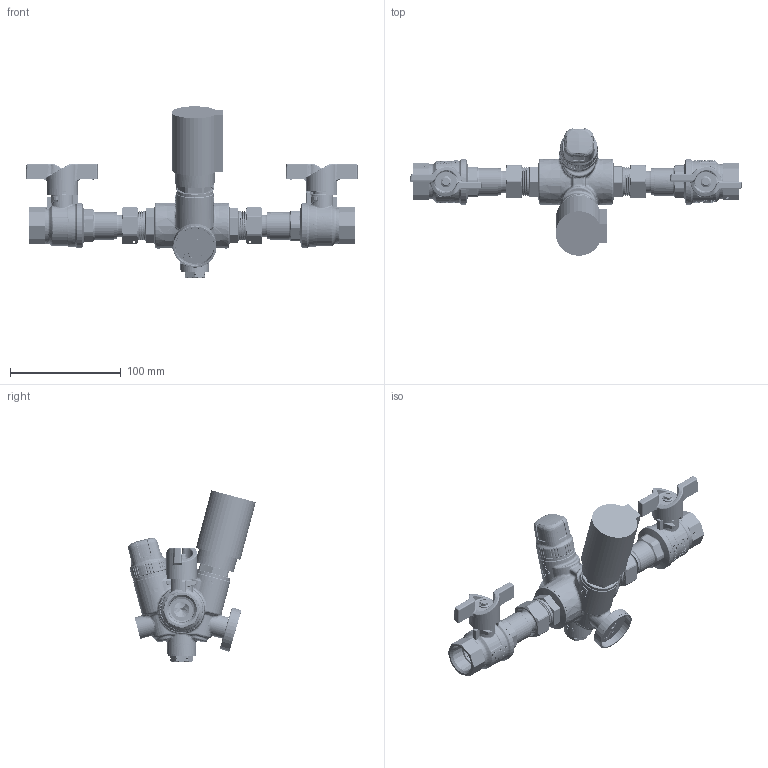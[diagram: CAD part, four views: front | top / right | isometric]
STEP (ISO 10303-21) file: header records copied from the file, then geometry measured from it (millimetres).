
FILE_DESCRIPTION(('Open CASCADE Model'),'2;1');
FILE_NAME('Open CASCADE Shape Model','2022-08-03T09:53:27',('Author'),( 'Open CASCADE'),'Open CASCADE STEP processor 7.3','Open CASCADE 7.3' ,'Unknown');
FILE_SCHEMA(('AUTOMOTIVE_DESIGN { 1 0 10303 214 1 1 1 1 }'));
Length unit declared in the file: millimetre
Products named in the file (58): Open CASCADE STEP translator 7.3 1; Open CASCADE STEP translator 7.3 1.1; Open CASCADE STEP translator 7.3 1.1.1; Open CASCADE STEP translator 7.3 1.1.2; Open CASCADE STEP translator 7.3 1.1.3; Open CASCADE STEP translator 7.3 1.1.4; Open CASCADE STEP translator 7.3 1.1.5; Open CASCADE STEP translator 7.3 1.1.6; Open CASCADE STEP translator 7.3 1.1.7; Open CASCADE STEP translator 7.3 1.1.8; Open CASCADE STEP translator 7.3 1.1.9; Open CASCADE STEP translator 7.3 1.1.10; Open CASCADE STEP translator 7.3 1.1.11; Open CASCADE STEP translator 7.3 1.1.12; Open CASCADE STEP translator 7.3 1.1.13; Open CASCADE STEP translator 7.3 1.1.14; Open CASCADE STEP translator 7.3 1.1.15; Open CASCADE STEP translator 7.3 1.1.16; Open CASCADE STEP translator 7.3 1.1.17; Open CASCADE STEP translator 7.3 1.1.18; Open CASCADE STEP translator 7.3 1.1.19; Open CASCADE STEP translator 7.3 1.1.20; Open CASCADE STEP translator 7.3 1.1.21; Open CASCADE STEP translator 7.3 1.1.22; Open CASCADE STEP translator 7.3 1.1.23; Open CASCADE STEP translator 7.3 1.1.24; Open CASCADE STEP translator 7.3 1.1.25; Open CASCADE STEP translator 7.3 1.1.26; Open CASCADE STEP translator 7.3 1.1.27; Open CASCADE STEP translator 7.3 1.1.28; Open CASCADE STEP translator 7.3 1.1.29; Open CASCADE STEP translator 7.3 1.1.30; Open CASCADE STEP translator 7.3 1.1.31; Open CASCADE STEP translator 7.3 1.1.32; Open CASCADE STEP translator 7.3 1.1.33; Open CASCADE STEP translator 7.3 1.1.34; Open CASCADE STEP translator 7.3 1.1.35; Open CASCADE STEP translator 7.3 1.1.36; Open CASCADE STEP translator 7.3 1.2; Open CASCADE STEP translator 7.3 1.2.1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
Assembly tree (57 placements, depth 3):
  Open CASCADE STEP translator 7.3 1
    Open CASCADE STEP translator 7.3 1.1
      Open CASCADE STEP translator 7.3 1.1.1
      Open CASCADE STEP translator 7.3 1.1.2
      Open CASCADE STEP translator 7.3 1.1.3
      Open CASCADE STEP translator 7.3 1.1.4
      Open CASCADE STEP translator 7.3 1.1.5
      Open CASCADE STEP translator 7.3 1.1.6
      Open CASCADE STEP translator 7.3 1.1.7
      Open CASCADE STEP translator 7.3 1.1.8
      Open CASCADE STEP translator 7.3 1.1.9
      Open CASCADE STEP translator 7.3 1.1.10
      Open CASCADE STEP translator 7.3 1.1.11
      Open CASCADE STEP translator 7.3 1.1.12
      Open CASCADE STEP translator 7.3 1.1.13
      Open CASCADE STEP translator 7.3 1.1.14
      Open CASCADE STEP translator 7.3 1.1.15
      Open CASCADE STEP translator 7.3 1.1.16
      Open CASCADE STEP translator 7.3 1.1.17
      Open CASCADE STEP translator 7.3 1.1.18
      Open CASCADE STEP translator 7.3 1.1.19
      Open CASCADE STEP translator 7.3 1.1.20
      Open CASCADE STEP translator 7.3 1.1.21
      Open CASCADE STEP translator 7.3 1.1.22
      Open CASCADE STEP translator 7.3 1.1.23
      Open CASCADE STEP translator 7.3 1.1.24
      Open CASCADE STEP translator 7.3 1.1.25
      Open CASCADE STEP translator 7.3 1.1.26
      Open CASCADE STEP translator 7.3 1.1.27
      Open CASCADE STEP translator 7.3 1.1.28
      Open CASCADE STEP translator 7.3 1.1.29
      Open CASCADE STEP translator 7.3 1.1.30
      Open CASCADE STEP translator 7.3 1.1.31
      Open CASCADE STEP translator 7.3 1.1.32
      Open CASCADE STEP translator 7.3 1.1.33
      Open CASCADE STEP translator 7.3 1.1.34
      Open CASCADE STEP translator 7.3 1.1.35
      Open CASCADE STEP translator 7.3 1.1.36
    Open CASCADE STEP translator 7.3 1.2
      Open CASCADE STEP translator 7.3 1.2.1
      Open CASCADE STEP translator 7.3 1.2.2
      Open CASCADE STEP translator 7.3 1.2.3
      Open CASCADE STEP translator 7.3 1.2.4
      Open CASCADE STEP translator 7.3 1.2.5
      Open CASCADE STEP translator 7.3 1.2.6
      Open CASCADE STEP translator 7.3 1.2.7
      Open CASCADE STEP translator 7.3 1.2.8
      Open CASCADE STEP translator 7.3 1.2.9
      Open CASCADE STEP translator 7.3 1.2.10
      Open CASCADE STEP translator 7.3 1.2.11
      Open CASCADE STEP translator 7.3 1.2.12
      Open CASCADE STEP translator 7.3 1.2.13
      Open CASCADE STEP translator 7.3 1.2.14
      Open CASCADE STEP translator 7.3 1.2.15
      Open CASCADE STEP translator 7.3 1.2.16
      Open CASCADE STEP translator 7.3 1.2.17
      Open CASCADE STEP translator 7.3 1.2.18
      Open CASCADE STEP translator 7.3 1.2.19
Bounding box: 299.18 x 114.98 x 154.4 mm (x, y, z)
Volume: 348579.5 mm3; surface area: 193661.2 mm2
Topology: 55 solids, 55 shells, 8974 faces, 23323 edges, 14784 vertices
Faces by surface type: extrusion 3171, plane 1894, cylinder 1643, bspline 896, cone 662, torus 498, sphere 126, revolution 84
Full cylindrical faces by diameter (mm): 35.672 x1
Entity records: 983638 total; most frequent: CARTESIAN_POINT 575479, DIRECTION 53865, ORIENTED_EDGE 46602, PCURVE 46602, DEFINITIONAL_REPRESENTATION 46602, B_SPLINE_CURVE_WITH_KNOTS 36642, VECTOR 32476, LINE 29305
